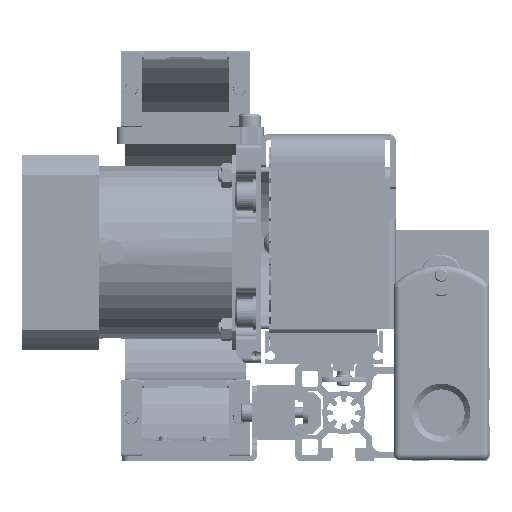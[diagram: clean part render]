
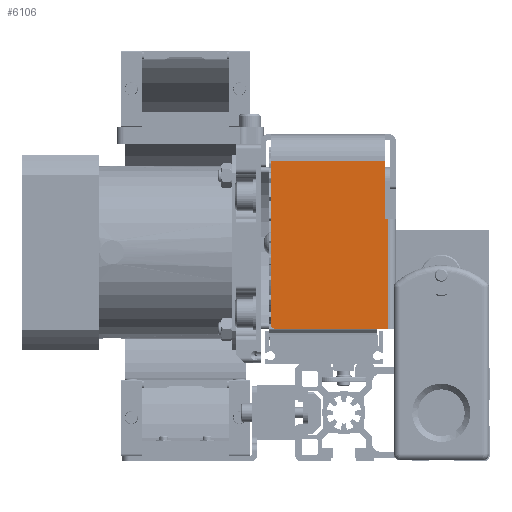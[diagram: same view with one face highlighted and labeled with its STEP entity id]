
A CAD part, front view. The second image highlights one B-rep face of the part: STEP entity #6106.
In plain terms, the highlighted planar face has unit normal (0, -1, 0) as drawn and (1, 0, 0) by its records, which use the part's own axes.
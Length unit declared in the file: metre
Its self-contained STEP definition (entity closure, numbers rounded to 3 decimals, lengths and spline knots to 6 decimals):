
#6106 = ADVANCED_FACE( '', ( #13217 ), #13218, .F. );
#13217 = FACE_OUTER_BOUND( '', #23010, .T. );
#13218 = PLANE( '', #23011 );
#23010 = EDGE_LOOP( '', ( #33932, #33933, #33934, #33935, #33936, #33937, #33938 ) );
#23011 = AXIS2_PLACEMENT_3D( '', #33939, #33940, #33941 );
#33932 = ORIENTED_EDGE( '', *, *, #59264, .F. );
#33933 = ORIENTED_EDGE( '', *, *, #59265, .T. );
#33934 = ORIENTED_EDGE( '', *, *, #58517, .T. );
#33935 = ORIENTED_EDGE( '', *, *, #59266, .F. );
#33936 = ORIENTED_EDGE( '', *, *, #59267, .T. );
#33937 = ORIENTED_EDGE( '', *, *, #59268, .T. );
#33938 = ORIENTED_EDGE( '', *, *, #59269, .F. );
#33939 = CARTESIAN_POINT( '', ( 0.21354, -0.027229, 0.078238 ) );
#33940 = DIRECTION( '', ( -1., 0., 0. ) );
#33941 = DIRECTION( '', ( 0., 1., 0. ) );
#58517 = EDGE_CURVE( '', #69184, #69182, #69185, .T. );
#59264 = EDGE_CURVE( '', #70512, #70513, #70514, .F. );
#59265 = EDGE_CURVE( '', #70512, #69184, #70515, .F. );
#59266 = EDGE_CURVE( '', #70516, #69182, #70517, .T. );
#59267 = EDGE_CURVE( '', #70516, #70518, #70519, .T. );
#59268 = EDGE_CURVE( '', #70518, #70520, #70521, .F. );
#59269 = EDGE_CURVE( '', #70513, #70520, #70522, .T. );
#69182 = VERTEX_POINT( '', #84358 );
#69184 = VERTEX_POINT( '', #84360 );
#69185 = LINE( '', #84361, #84362 );
#70512 = VERTEX_POINT( '', #86636 );
#70513 = VERTEX_POINT( '', #86637 );
#70514 = LINE( '', #86638, #86639 );
#70515 = CIRCLE( '', #86640, 0.001524 );
#70516 = VERTEX_POINT( '', #86641 );
#70517 = LINE( '', #86642, #86643 );
#70518 = VERTEX_POINT( '', #86644 );
#70519 = LINE( '', #86645, #86646 );
#70520 = VERTEX_POINT( '', #86647 );
#70521 = LINE( '', #86648, #86649 );
#70522 = LINE( '', #86650, #86651 );
#84358 = CARTESIAN_POINT( '', ( 0.21354, 0.026873, 0.000642 ) );
#84360 = CARTESIAN_POINT( '', ( 0.21354, -0.025705, 0.000642 ) );
#84361 = CARTESIAN_POINT( '', ( 0.21354, -0.027229, 0.000642 ) );
#84362 = VECTOR( '', #106476, 1. );
#86636 = CARTESIAN_POINT( '', ( 0.21354, -0.027229, 0.002166 ) );
#86637 = CARTESIAN_POINT( '', ( 0.21354, -0.027229, 0.078238 ) );
#86638 = CARTESIAN_POINT( '', ( 0.21354, -0.027229, 0.078238 ) );
#86639 = VECTOR( '', #107358, 1. );
#86640 = AXIS2_PLACEMENT_3D( '', #107359, #107360, #107361 );
#86641 = CARTESIAN_POINT( '', ( 0.21354, 0.026873, 0.051442 ) );
#86642 = CARTESIAN_POINT( '', ( 0.21354, 0.026873, 0.051442 ) );
#86643 = VECTOR( '', #107362, 1. );
#86644 = CARTESIAN_POINT( '', ( 0.21354, 0.025603, 0.051442 ) );
#86645 = CARTESIAN_POINT( '', ( 0.21354, 0.025603, 0.051442 ) );
#86646 = VECTOR( '', #107363, 1. );
#86647 = CARTESIAN_POINT( '', ( 0.21354, 0.025603, 0.078238 ) );
#86648 = CARTESIAN_POINT( '', ( 0.21354, 0.025603, 0.078238 ) );
#86649 = VECTOR( '', #107364, 1. );
#86650 = CARTESIAN_POINT( '', ( 0.21354, -0.027229, 0.078238 ) );
#86651 = VECTOR( '', #107365, 1. );
#106476 = DIRECTION( '', ( 0., 1., 0. ) );
#107358 = DIRECTION( '', ( 0., 0., -1. ) );
#107359 = CARTESIAN_POINT( '', ( 0.21354, -0.025705, 0.002166 ) );
#107360 = DIRECTION( '', ( -1., 0., 0. ) );
#107361 = DIRECTION( '', ( 0., 1., 0. ) );
#107362 = DIRECTION( '', ( 0., 0., -1. ) );
#107363 = DIRECTION( '', ( 0., -1., 0. ) );
#107364 = DIRECTION( '', ( 0., 0., -1. ) );
#107365 = DIRECTION( '', ( 0., 1., 0. ) );
